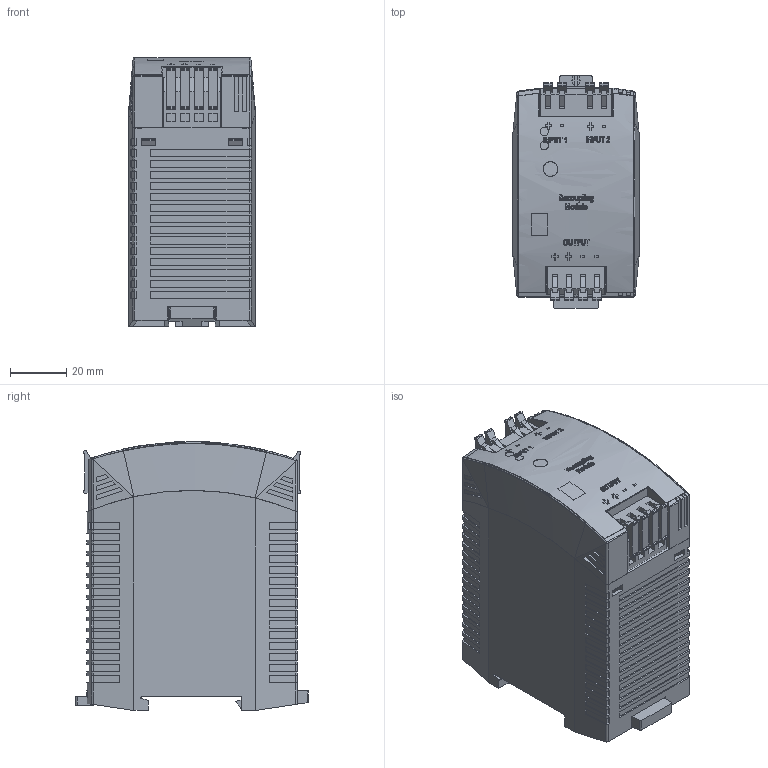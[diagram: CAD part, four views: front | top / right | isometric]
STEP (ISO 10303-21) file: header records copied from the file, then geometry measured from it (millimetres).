
FILE_DESCRIPTION((''),'2;1');
FILE_NAME('C:\Users\rahns\Desktop\Sylvia Info´s\Dateien für Vertrieb\MLY02\md3_mly02_100.stp','2012-06-11T09:56:05',('rahns'),(''),'Autodesk Inventor 2009','Autodesk Inventor 2009','');
FILE_SCHEMA(('AUTOMOTIVE_DESIGN { 1 0 10303 214 1 1 1 1 }'));
Length unit declared in the file: millimetre
Products named in the file (7): 350; HOUSING BODY 322; HOUSING COVER 322; SLIDER 322; TERMINAL 4P R5,0; TERMINAL 4P R5+10; FRONTFOIL 350
Assembly tree (6 placements, depth 2):
  350
    HOUSING BODY 322
    HOUSING COVER 322
    SLIDER 322
    TERMINAL 4P R5,0
    TERMINAL 4P R5+10
    FRONTFOIL 350
Bounding box: 45 x 83 x 95.87 mm (x, y, z)
Volume: 292326.6 mm3; surface area: 52538.5 mm2
Topology: 11 solids, 13 shells, 1719 faces, 4770 edges, 3155 vertices
Faces by surface type: plane 1215, cylinder 300, bspline 197, cone 7
Full cylindrical faces by diameter (mm): 1 x8, 3 x2, 5.2 x1
Entity records: 124139 total; most frequent: CARTESIAN_POINT 80940, ORIENTED_EDGE 9518, DIRECTION 7904, EDGE_CURVE 4759, VECTOR 3316, LINE 3316, VERTEX_POINT 3155, AXIS2_PLACEMENT_3D 2294
